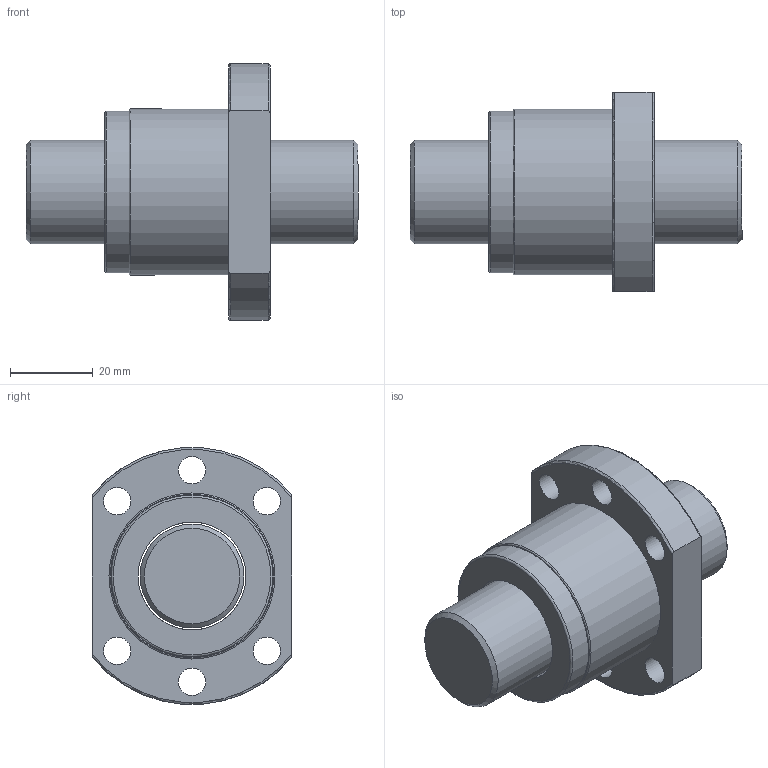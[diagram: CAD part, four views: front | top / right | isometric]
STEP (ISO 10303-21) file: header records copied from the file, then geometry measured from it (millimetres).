
FILE_DESCRIPTION(/* description */ (''),/* implementation_level */ '2;1');
FILE_NAME(/* name */ 'SFS2505',/* time_stamp */ '2007-10-26T10:55:40+08:00',/* author */ (''),/* organization */ (''),/* preprocessor_version */ 'ST-DEVELOPER v9',/* originating_system */ 'UGS - NX 3.0',/* authorisation */ '');
FILE_SCHEMA (('CONFIG_CONTROL_DESIGN'));
Length unit declared in the file: millimetre
Products named in the file (1): jaso37B0hu71
Bounding box: 80 x 48 x 61.8 mm (x, y, z)
Volume: 79073.8 mm3; surface area: 25097.6 mm2
Topology: 4 solids, 4 shells, 38 faces, 77 edges, 50 vertices
Faces by surface type: cylinder 16, plane 10, torus 7, bspline 3, cone 2
Full cylindrical faces by diameter (mm): 6.6 x6, 25 x1, 26 x3, 39 x2, 40 x2
Entity records: 1202 total; most frequent: CARTESIAN_POINT 351, DIRECTION 158, ORIENTED_EDGE 116, EDGE_LOOP 78, AXIS2_PLACEMENT_3D 75, EDGE_CURVE 58, FACE_BOUND 57, VERTEX_POINT 50
